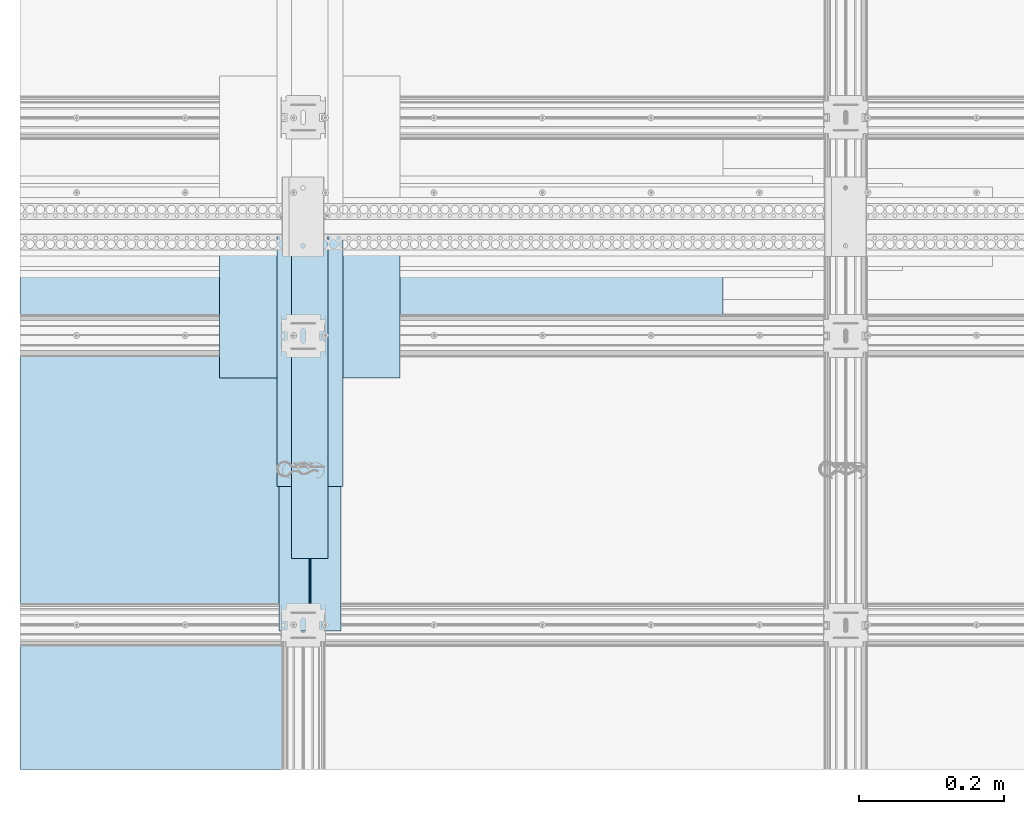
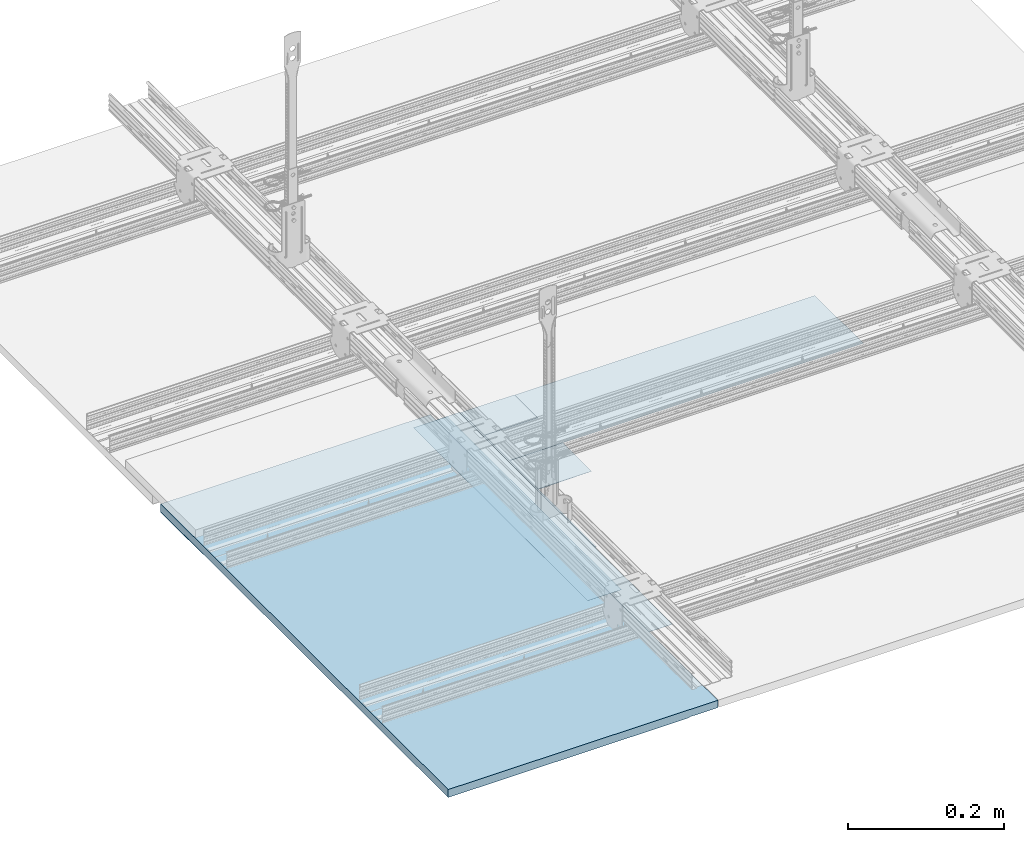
# One storey, part 4 of 56: 6 slabs.
"""IFC2X3 building model written with IfcOpenShell, lengths in millimetres."""

from ifc_helpers import new_model, entity, si_unit, converted_unit, direction, frame, origin, origin_with_axes, place, context, project, spatial, faceted_brep, element, save


model = new_model("IFC2X3")

# Units and contexts
model_context = context("Model", 3, precision=1e-05, world=origin(), true_north=direction((0.0, 1.0, 0.0)))
ifc_project = project(units=[si_unit("LENGTHUNIT", "METRE", prefix="MILLI"), si_unit("AREAUNIT", "SQUARE_METRE"), si_unit("VOLUMEUNIT", "CUBIC_METRE"), converted_unit("PLANEANGLEUNIT", "DEGREE", entity("IfcPlaneAngleMeasure", 0.01745), si_unit("PLANEANGLEUNIT", "RADIAN"), dimensions=[0, 0, 0, 0, 0, 0, 0]), si_unit("SOLIDANGLEUNIT", "STERADIAN"), si_unit("MASSUNIT", "GRAM"), si_unit("TIMEUNIT", "SECOND"), si_unit("THERMODYNAMICTEMPERATUREUNIT", "DEGREE_CELSIUS"), si_unit("LUMINOUSINTENSITYUNIT", "LUMEN")], contexts=[model_context])

# Site, building, storey
site_placement = place(None, origin_with_axes())
site = spatial("IfcSite", under=ifc_project, at=site_placement, Name="Default Site", CompositionType="ELEMENT")
building_placement = place(site_placement, origin_with_axes())
building = spatial("IfcBuilding", under=site, at=building_placement, Name="Default Building", CompositionType="ELEMENT")
storey_placement = place(building_placement, origin_with_axes())
storey = spatial("IfcBuildingStorey", under=building, at=storey_placement, Name="Default Building Storey", CompositionType="ELEMENT", Elevation=0.0)

# Slabs
slab_1_placement = place(storey_placement, frame((2525.439347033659, 390.2088794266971, 993.785217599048), z_axis=(-6.72623262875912e-44, -1.0, 3.330669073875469e-16), x_axis=(-1.0, 2.128075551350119e-28, 6.389333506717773e-13)))
element("IfcSlab", 1, at=slab_1_placement, inside=storey, Name="Płyta gipsowo-kartonowa RIGIPS PRO (4PRO™)", context=model_context, shape_type="Brep", body=[
    faceted_brep([(400.4142135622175, 12.4999999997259, -428.1320433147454), (400.4142135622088, -2.463522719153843e-10, -428.1320433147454), (400.4142135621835, -2.62053845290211e-10, -1167.762426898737), (400.4142135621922, 12.4999999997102, -1167.762426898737), (44.9999999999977, 12.50000000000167, -428.1320433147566), (40.9999999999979, 11.50000000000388, -428.1320433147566), (0.9999999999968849, 11.50000000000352, -428.1320433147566), (0.7411809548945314, 11.46592582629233, -428.1320433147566), (0.4999999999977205, 11.36602540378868, -428.1320433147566), (0.29289321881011, 11.20710678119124, -428.1320433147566), (0.1339745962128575, 11.00000000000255, -428.1320433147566), (0.03407417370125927, 10.75881904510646, -428.1320433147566), (-1.082867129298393e-12, 10.50000000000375, -428.1320433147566), (0.0, 3.609557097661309e-13, -428.1320433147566), (44.9999999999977, 12.49999999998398, -1167.762426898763), (40.9999999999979, 11.49999999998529, -1167.762426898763), (0.9999999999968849, 11.49999999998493, -1167.762426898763), (0.7411809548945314, 11.46592582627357, -1167.762426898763), (0.4999999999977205, 11.36602540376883, -1167.762426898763), (0.29289321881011, 11.20710678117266, -1167.762426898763), (0.1339745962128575, 10.99999999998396, -1167.762426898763), (0.03407417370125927, 10.75881904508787, -1167.762426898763), (-1.082867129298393e-12, 10.4999999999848, -1167.762426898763), (0.0, -1.858921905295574e-11, -1167.762426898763)], [[[0, 1, 2, 3]], [[0, 4, 5, 6, 7, 8, 9, 10, 11, 12, 13, 1]], [[3, 14, 4, 0]], [[5, 4, 14, 15]], [[6, 5, 15, 16]], [[7, 6, 16, 17]], [[8, 7, 17, 18]], [[9, 8, 18, 19]], [[10, 9, 19, 20]], [[11, 10, 20, 21]], [[12, 11, 21, 22]], [[13, 12, 22, 23]], [[2, 1, 13, 23]], [[14, 3, 2, 23, 22, 21, 20, 19, 18, 17, 16, 15]]]),
])
slab_2_placement = place(storey_placement, frame((3262.898563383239, 1560.421303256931, 4371.841939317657), z_axis=(0.0, -1.0, 3.330669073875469e-16), x_axis=(1.0, 0.0, 0.0)))
element("IfcSlab", 2, at=slab_2_placement, inside=storey, Name="Dedykowana masa szpachlowa Rigips - wykończeniowa", context=model_context, shape_type="Brep", body=[
    faceted_brep([(-612.459216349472, -3390.556721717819, 2.449996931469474), (-862.459216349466, -3390.556721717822, 2.449996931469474), (-812.4612643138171, -3391.196716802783, 2.449996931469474), (-762.4602403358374, -3391.516720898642, 2.449996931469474), (-712.458192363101, -3391.51672089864, 2.449996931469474), (-662.4571683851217, -3391.19671680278, 2.449996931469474), (-762.4602403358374, -3391.516720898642, 200.8000000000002), (-812.4612643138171, -3391.196716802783, 200.8000000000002), (-862.459216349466, -3390.556721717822, 200.8000000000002), (-612.459216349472, -3390.556721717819, 200.8000000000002), (-662.4571683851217, -3391.19671680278, 200.8000000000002), (-712.458192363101, -3391.516720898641, 200.8000000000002)], [[[0, 1, 2, 3, 4, 5]], [[6, 7, 8, 9, 10, 11]], [[9, 0, 5, 10]], [[10, 5, 4, 11]], [[11, 4, 3, 6]], [[6, 3, 2, 7]], [[1, 8, 7, 2]], [[0, 9, 8, 1]]]),
])
slab_3_placement = place(storey_placement, frame((3262.898563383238, 1560.421303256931, 4371.641939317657), z_axis=(2.257951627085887e-47, -1.0, 3.330669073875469e-16), x_axis=(1.0, 2.257951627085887e-47, -7.520489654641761e-63)))
element("IfcSlab", 3, at=slab_3_placement, inside=storey, Name="Taśma spoinowa RIGIPS", context=model_context, shape_type="Brep", body=[
    faceted_brep([(-712.4592163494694, -3389.656721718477, 450.8), (-712.4592163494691, -3389.856721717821, 450.8), (-762.4592163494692, -3389.856721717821, 450.8), (-762.4592163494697, -3389.656721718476, 450.8), (-712.4592163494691, -3389.856721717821, 2.449996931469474), (-712.4592163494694, -3389.656721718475, 2.449996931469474), (-762.4592163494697, -3389.656721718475, 2.449996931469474), (-762.4592163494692, -3389.856721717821, 2.449996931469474)], [[[0, 1, 2, 3]], [[4, 5, 6, 7]], [[5, 0, 3, 6]], [[6, 3, 2, 7]], [[7, 2, 1, 4]], [[4, 1, 0, 5]]]),
])
slab_4_placement = place(storey_placement, frame((2480.439347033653, 1009.621303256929, 981.985217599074), z_axis=(0.0, 0.0, 1.0), x_axis=(1.0, 0.0, 0.0)))
element("IfcSlab", 4, at=slab_4_placement, inside=storey, Name="Dedykowana masa szpachlowa Rigips - konstrukcyjna", context=model_context, shape_type="Brep", body=[
    faceted_brep([(46.29289321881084, -1.804778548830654e-13, 0.5928932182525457), (46.29289321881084, 548.3500030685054, 0.5928932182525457), (46.13397459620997, 548.3500030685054, 0.7999999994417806), (46.13397459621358, -1.804778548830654e-13, 0.7999999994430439), (87.00000000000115, 0.0, 0.2999999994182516), (87.00000000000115, 548.3500030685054, 0.2999999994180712), (47.00000000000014, 548.3500030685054, 0.2999999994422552), (47.00000000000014, 0.0, 0.2999999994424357), (46.74118095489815, 0.0, 0.3340741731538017), (46.74118095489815, 548.3500030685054, 0.3340741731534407), (46.49999999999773, 548.3500030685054, 0.4339745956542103), (46.49999999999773, -1.804778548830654e-13, 0.4339745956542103), (2.799999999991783, 0.0, 1.804778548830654e-13), (88.1999999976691, 0.0, 0.0), (46.03407417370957, 0.0, 1.041180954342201), (45.99999999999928, 0.0, 1.299999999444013), (46.00000000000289, 0.0, 1.999999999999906), (44.99999999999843, 0.0, 1.999999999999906), (45.00000000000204, 0.0, 1.299999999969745), (44.96592582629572, 0.0, 1.041180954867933), (44.86602540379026, 0.0, 0.7999999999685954), (44.70710678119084, 1.804778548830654e-13, 0.5928932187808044), (44.50000000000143, 0.0, 0.4339745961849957), (44.2588190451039, 0.0, 0.3340741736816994), (44.00000000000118, 0.0, 0.2999999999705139), (3.999999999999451, 0.0, 0.3000000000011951), (46.03407417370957, 548.3500030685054, 1.041180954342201), (45.99999999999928, 548.3500030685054, 1.299999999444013), (88.1999999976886, 548.3500030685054, -1.804778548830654e-13), (46.00000000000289, 548.3500030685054, 1.999999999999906), (44.99999999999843, 548.3500030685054, 1.999999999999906), (2.799999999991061, 548.3500030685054, 0.0), (3.999999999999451, 548.3500030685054, 0.3000000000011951), (44.00000000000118, 548.3500030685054, 0.2999999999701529), (44.2588190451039, 548.3500030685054, 0.3340741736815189), (44.5000000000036, 548.3500030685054, 0.433974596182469), (44.70710678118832, 548.3500030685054, 0.5928932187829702), (44.86602540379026, 548.3500030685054, 0.7999999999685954), (44.96592582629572, 548.3500030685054, 1.041180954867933), (45.00000000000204, 548.3500030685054, 1.299999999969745)], [[[0, 1, 2, 3]], [[4, 5, 6, 7]], [[8, 9, 10, 11]], [[12, 13, 4, 7, 8, 11, 0, 3, 14, 15, 16, 17, 18, 19, 20, 21, 22, 23, 24, 25]], [[14, 26, 27, 15]], [[3, 2, 26, 14]], [[7, 6, 9, 8]], [[11, 10, 1, 0]], [[4, 13, 28, 5]], [[15, 27, 29, 16]], [[30, 29, 27, 26, 2, 1, 10, 9, 6, 5, 28, 31, 32, 33, 34, 35, 36, 37, 38, 39]], [[18, 17, 30, 39]], [[19, 38, 37, 20]], [[18, 39, 38, 19]], [[24, 33, 32, 25]], [[23, 34, 33, 24]], [[20, 37, 36, 21]], [[17, 16, 29, 30]], [[21, 36, 35, 22]], [[22, 35, 34, 23]], [[25, 32, 31, 12]], [[31, 28, 13, 12]]]),
])
slab_5_placement = place(storey_placement, frame((2480.439347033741, 1209.62130325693, 981.2852175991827), z_axis=(0.0, 0.0, 1.0), x_axis=(1.0, 0.0, 0.0)))
element("IfcSlab", 5, at=slab_5_placement, inside=storey, Name="Dedykowana masa szpachlowa Rigips - konstrukcyjna", context=model_context, shape_type="Brep", body=[
    faceted_brep([(90.99999999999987, 0.0, 0.0), (90.99999999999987, 348.350003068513, 0.0), (88.19999999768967, 348.350003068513, 0.6999999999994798), (88.19999999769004, 0.0, 0.6999999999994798), (20.00000000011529, 3.609557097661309e-13, 0.2999999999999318), (20.00000000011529, 348.350003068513, 0.2999999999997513), (20.00000000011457, 348.350003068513, 0.6999999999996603), (20.00000000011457, 5.414335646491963e-13, 0.6999999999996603), (70.00000000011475, 1.804778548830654e-13, 0.3000000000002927), (70.00000000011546, 348.350003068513, 0.2999999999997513), (70.00000000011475, 1.263344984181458e-12, 0.6999999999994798), (70.00000000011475, 348.350003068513, 0.6999999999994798), (0.0, 0.0, 0.0), (0.0, 348.350003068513, 0.0), (2.799999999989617, 348.350003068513, 0.6999999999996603), (2.800000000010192, 5.414335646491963e-13, 0.6999999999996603)], [[[0, 1, 2, 3]], [[4, 5, 6, 7]], [[8, 9, 5, 4]], [[8, 10, 11, 9]], [[2, 11, 10, 3]], [[0, 12, 13, 1]], [[14, 6, 5, 9, 11, 2, 1, 13]], [[12, 15, 14, 13]], [[15, 7, 6, 14]], [[3, 10, 8, 4, 7, 15, 12, 0]]]),
])
slab_6_placement = place(storey_placement, frame((2542.250504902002, 2295.73052266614, 4102.56583431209), z_axis=(1.0, 9.998889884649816e-14, -2.657263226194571e-12), x_axis=(-1.537867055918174e-13, 1.0, 2.784771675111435e-12)))
element("IfcSlab", 6, at=slab_6_placement, inside=storey, Name="Dedykowana masa szpachlowa Rigips - wykończeniowa", context=model_context, shape_type="Brep", body=[
    faceted_brep([(-762.4602403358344, -3122.348552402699, 554.4180031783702), (-762.460240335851, -3122.348552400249, -417.2253714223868), (-812.4612643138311, -3122.053945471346, -417.2253714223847), (-812.4612643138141, -3122.053945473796, 554.4180031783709), (-797.4592163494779, -3122.017124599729, -417.2253714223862), (-797.4592163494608, -3122.017124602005, 554.4180031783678), (-797.4592163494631, -3121.648870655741, 554.4180031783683), (-797.4592163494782, -3121.648870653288, -417.2253714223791), (-737.4592163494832, -3122.348552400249, -417.2253714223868), (-737.4592163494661, -3122.348552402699, 554.4180031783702), (-862.4592163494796, -3121.188553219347, -417.2253714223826), (-862.4592163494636, -3121.188553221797, 554.4180031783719), (-737.4592163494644, -3122.017124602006, 554.4180031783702), (-797.4592163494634, -3121.188553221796, 554.4180031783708), (-737.4592163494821, -3122.017124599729, -417.2253714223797), (-797.45921634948, -3121.188553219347, -417.2253714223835)], [[[0, 1, 2, 3]], [[4, 5, 6, 7]], [[8, 1, 0, 9]], [[10, 11, 3, 2]], [[12, 9, 0, 3, 11, 13, 6, 5]], [[14, 8, 9, 12]], [[13, 11, 10, 15]], [[13, 15, 7, 6]], [[14, 12, 5, 4]], [[4, 7, 15, 10, 2, 1, 8, 14]]]),
])

save(model, "model.ifc")
